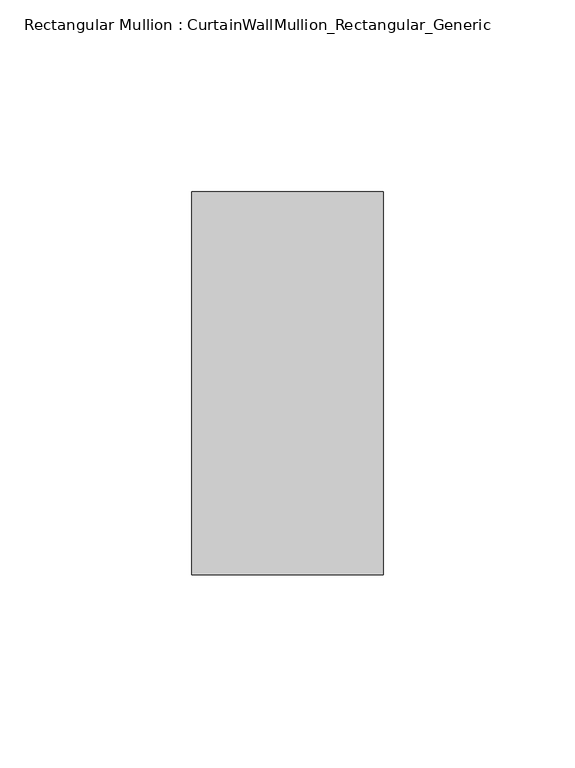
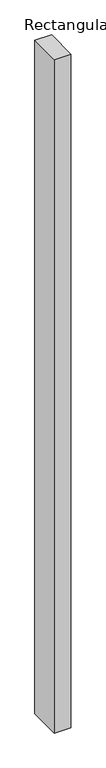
"""IFC4 building model written with IfcOpenShell, lengths in millimetres: member geometry, Rectangular Mullion : CurtainWallMullion_Rectangular_Generic."""

from ifc_helpers import new_model, si_unit, frame, origin, place, context, project, spatial, polyline, outline, extrude, source, transform, mapped, element, save


def rectangular_mullion_curtainwallmullion_rectangular_generic_cb270087(model_context):
    return source(origin(), model_context, "Body", "SweptSolid", [
        extrude(outline(polyline([(0.0, 50.0), (0.0, -50.0), (-50.0, -50.0), (-50.0, 50.0), (0.0, 50.0)])), frame((0.0, 0.0, -2131.9999998), z_axis=(0.0, 0.0, 1.0), x_axis=(1.0, 0.0, 0.0)), (0.0, 0.0, 1.0), 2131.9999998),
    ])


if __name__ == "__main__":
    model = new_model("IFC4")
    model_context = context("Model", 3, world=origin())
    ifc_project = project(units=[si_unit("LENGTHUNIT", "METRE", prefix="MILLI")], contexts=[model_context])
    site = spatial("IfcSite", under=ifc_project)
    building = spatial("IfcBuilding", under=site)
    placement = place(None, origin())
    rectangular_mullion_curtainwallmullion_rectangular_generic_shape = rectangular_mullion_curtainwallmullion_rectangular_generic_cb270087(model_context)
    element("IfcMember", 1, ObjectType="Rectangular Mullion : CurtainWallMullion_Rectangular_Generic", at=placement, inside=building, context=model_context, shape_type="MappedRepresentation", body=[
        mapped(rectangular_mullion_curtainwallmullion_rectangular_generic_shape, transform((0.0, 0.0, 0.0), x_axis=(1.0, 0.0, 0.0), y_axis=(0.0, 1.0, 0.0), z_axis=(0.0, 0.0, 1.0))),
    ])
    save(model, "model.ifc")
